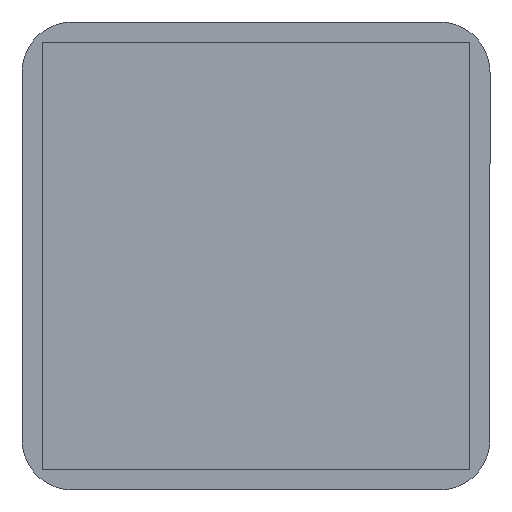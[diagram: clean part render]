
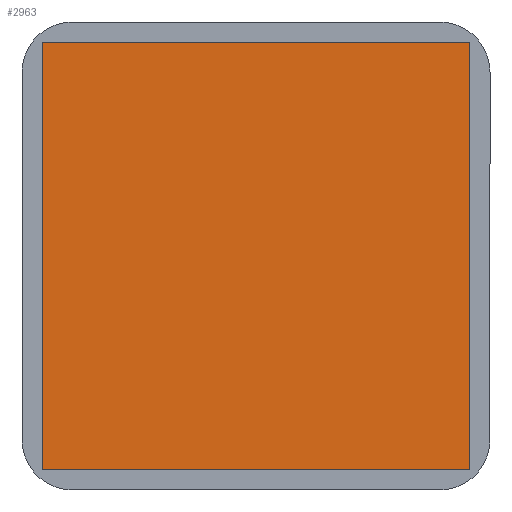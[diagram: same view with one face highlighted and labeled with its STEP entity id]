
A CAD part, front view. The second image highlights one B-rep face of the part: STEP entity #2963.
In plain terms, the highlighted planar face has unit normal (0, -1, 0).
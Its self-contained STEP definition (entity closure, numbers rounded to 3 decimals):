
#185 = VECTOR ( 'NONE', #792, 1000. ) ;
#208 = EDGE_CURVE ( 'NONE', #2905, #2148, #1375, .T. ) ;
#393 = ORIENTED_EDGE ( 'NONE', *, *, #2977, .F. ) ;
#408 = DIRECTION ( 'NONE',  ( 0., 0., 1. ) ) ;
#474 = EDGE_CURVE ( 'NONE', #2148, #3329, #2856, .T. ) ;
#526 = CARTESIAN_POINT ( 'NONE',  ( 8.5, -0.127, 8.5 ) ) ;
#625 = LINE ( 'NONE', #2112, #1324 ) ;
#652 = CARTESIAN_POINT ( 'NONE',  ( -8.5, -0.127, 8.5 ) ) ;
#664 = DIRECTION ( 'NONE',  ( 0., 0., 1. ) ) ;
#792 = DIRECTION ( 'NONE',  ( 1., 0., 0. ) ) ;
#846 = ORIENTED_EDGE ( 'NONE', *, *, #474, .F. ) ;
#859 = VECTOR ( 'NONE', #2648, 1000. ) ;
#967 = CARTESIAN_POINT ( 'NONE',  ( -8.5, -0.127, -8.5 ) ) ;
#987 = DIRECTION ( 'NONE',  ( 0., 0., -1. ) ) ;
#1148 = AXIS2_PLACEMENT_3D ( 'NONE', #1251, #3505, #664 ) ;
#1251 = CARTESIAN_POINT ( 'NONE',  ( -8.5, -0.127, 8.5 ) ) ;
#1324 = VECTOR ( 'NONE', #408, 1000. ) ;
#1375 = LINE ( 'NONE', #1972, #185 ) ;
#1397 = FACE_OUTER_BOUND ( 'NONE', #3432, .T. ) ;
#1590 = ORIENTED_EDGE ( 'NONE', *, *, #3206, .F. ) ;
#1772 = LINE ( 'NONE', #2593, #859 ) ;
#1972 = CARTESIAN_POINT ( 'NONE',  ( -8.5, -0.127, 8.5 ) ) ;
#2112 = CARTESIAN_POINT ( 'NONE',  ( -8.5, -0.127, -8.5 ) ) ;
#2148 = VERTEX_POINT ( 'NONE', #526 ) ;
#2592 = CARTESIAN_POINT ( 'NONE',  ( 8.5, -0.127, -8.5 ) ) ;
#2593 = CARTESIAN_POINT ( 'NONE',  ( -8.5, -0.127, -8.5 ) ) ;
#2648 = DIRECTION ( 'NONE',  ( -1., 0., 0. ) ) ;
#2803 = PLANE ( 'NONE',  #1148 ) ;
#2856 = LINE ( 'NONE', #2592, #3077 ) ;
#2905 = VERTEX_POINT ( 'NONE', #652 ) ;
#2963 = ADVANCED_FACE ( 'NONE', ( #1397 ), #2803, .F. ) ;
#2977 = EDGE_CURVE ( 'NONE', #3241, #2905, #625, .T. ) ;
#3027 = CARTESIAN_POINT ( 'NONE',  ( 8.5, -0.127, -8.5 ) ) ;
#3077 = VECTOR ( 'NONE', #987, 1000. ) ;
#3206 = EDGE_CURVE ( 'NONE', #3329, #3241, #1772, .T. ) ;
#3241 = VERTEX_POINT ( 'NONE', #967 ) ;
#3329 = VERTEX_POINT ( 'NONE', #3027 ) ;
#3432 = EDGE_LOOP ( 'NONE', ( #393, #1590, #846, #3437 ) ) ;
#3437 = ORIENTED_EDGE ( 'NONE', *, *, #208, .F. ) ;
#3505 = DIRECTION ( 'NONE',  ( 0., 1., 0. ) ) ;
